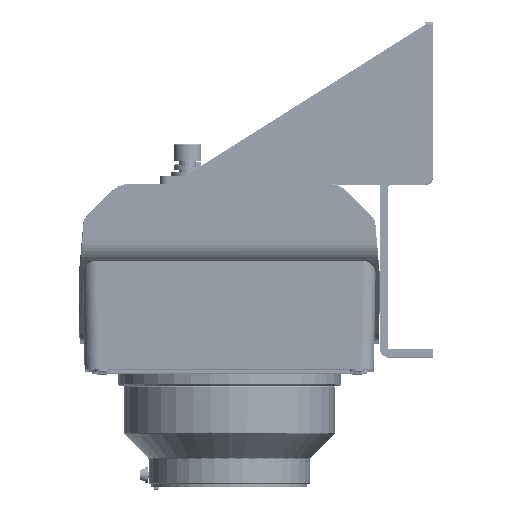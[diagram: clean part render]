
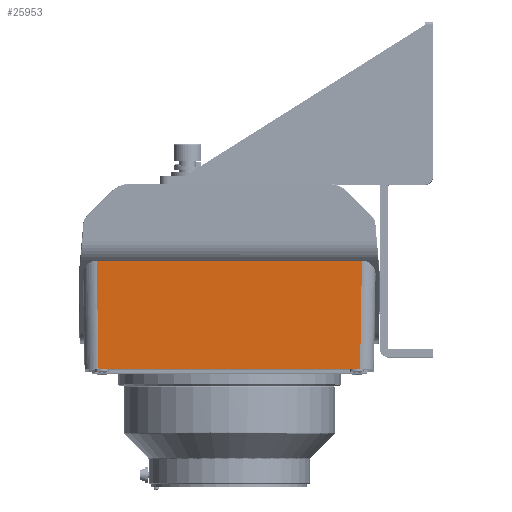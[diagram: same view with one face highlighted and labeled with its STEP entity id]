
A CAD part, top view. The second image highlights one B-rep face of the part: STEP entity #25953.
In plain terms, the highlighted planar face has unit normal (0, -0.018, 1).
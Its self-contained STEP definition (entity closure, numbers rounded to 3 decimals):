
#227=DIRECTION('',(-1.,0.,0.));
#228=VECTOR('',#227,95.367);
#229=CARTESIAN_POINT('',(47.683,-35.893,300.683));
#230=LINE('',#229,#228);
#565=DIRECTION('',(-0.017,-1.,-0.017));
#566=VECTOR('',#565,39.119);
#567=CARTESIAN_POINT('',(47.683,-35.893,300.683));
#568=LINE('',#567,#566);
#569=DIRECTION('',(-0.017,1.,0.017));
#570=VECTOR('',#569,39.119);
#571=CARTESIAN_POINT('',(-47.001,-75.,300.));
#572=LINE('',#571,#570);
#573=CARTESIAN_POINT('',(47.683,-35.893,300.683));
#17965=DIRECTION('',(1.,0.,0.));
#17966=VECTOR('',#17965,94.001);
#17967=CARTESIAN_POINT('',(-47.001,-75.,
300.));
#17968=LINE('',#17967,#17966);
#19734=VERTEX_POINT('',#573);
#19735=CARTESIAN_POINT('',(-47.683,-35.893,
300.683));
#19736=VERTEX_POINT('',#19735);
#19973=CARTESIAN_POINT('',(-47.001,-75.,
300.));
#19974=VERTEX_POINT('',#19973);
#19975=CARTESIAN_POINT('',(47.001,-75.,
300.));
#19976=VERTEX_POINT('',#19975);
#25940=CARTESIAN_POINT('',(-52.,-75.,300.));
#25941=DIRECTION('',(0.,-0.017,1.));
#25942=DIRECTION('',(1.,0.,0.));
#25943=AXIS2_PLACEMENT_3D('',#25940,#25941,#25942);
#25944=PLANE('',#25943);
#25945=ORIENTED_EDGE('',*,*,#25198,.F.);
#25947=ORIENTED_EDGE('',*,*,#25946,.T.);
#25949=ORIENTED_EDGE('',*,*,#25948,.F.);
#25950=ORIENTED_EDGE('',*,*,#25925,.T.);
#25951=EDGE_LOOP('',(#25945,#25947,#25949,#25950));
#25952=FACE_OUTER_BOUND('',#25951,.F.);
#25198=EDGE_CURVE('',#19734,#19736,#230,.T.);
#25925=EDGE_CURVE('',#19974,#19736,#572,.T.);
#25946=EDGE_CURVE('',#19734,#19976,#568,.T.);
#25948=EDGE_CURVE('',#19974,#19976,#17968,.T.);
#25953=ADVANCED_FACE('',(#25952),#25944,.T.);
